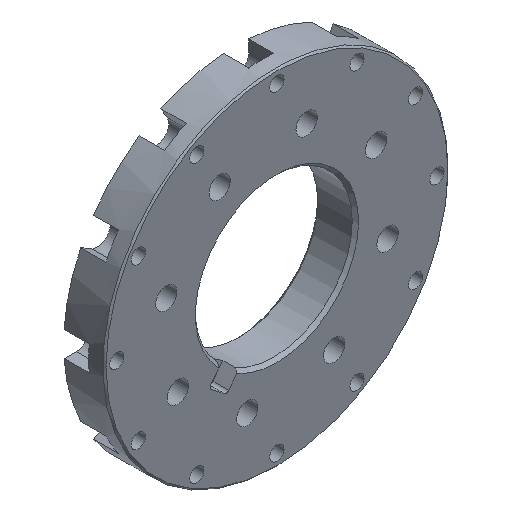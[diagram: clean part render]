
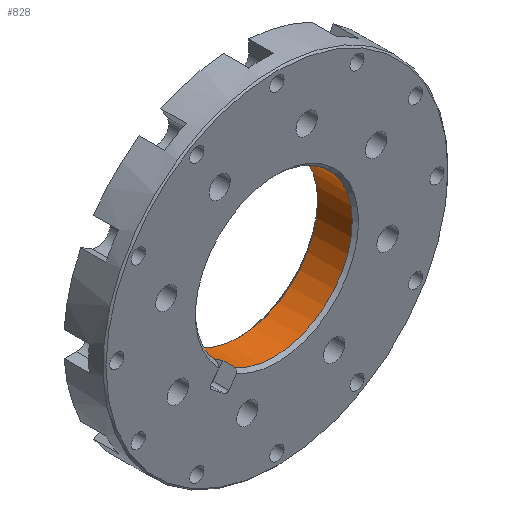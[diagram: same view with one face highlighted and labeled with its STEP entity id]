
A CAD part, isometric view. The second image highlights one B-rep face of the part: STEP entity #828.
In plain terms, the highlighted cylindrical face has radius 25 mm (diameter 50 mm), a full revolution.
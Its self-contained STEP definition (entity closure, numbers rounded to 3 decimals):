
#6 = AXIS2_PLACEMENT_3D ( 'NONE', #174, #2353, #1251 ) ;
#105 = VERTEX_POINT ( 'NONE', #2556 ) ;
#127 = EDGE_CURVE ( 'NONE', #1259, #105, #467, .T. ) ;
#149 = EDGE_LOOP ( 'NONE', ( #2075, #1397, #2398, #1826 ) ) ;
#174 = CARTESIAN_POINT ( 'NONE',  ( 0., -12., 0. ) ) ;
#207 = CARTESIAN_POINT ( 'NONE',  ( -12.204, 0., -21.819 ) ) ;
#219 = EDGE_LOOP ( 'NONE', ( #2237 ) ) ;
#322 = CYLINDRICAL_SURFACE ( 'NONE', #385, 25. ) ;
#366 = CARTESIAN_POINT ( 'NONE',  ( -17.916, 0., -17.436 ) ) ;
#385 = AXIS2_PLACEMENT_3D ( 'NONE', #906, #1211, #459 ) ;
#392 = CIRCLE ( 'NONE', #6, 25. ) ;
#459 = DIRECTION ( 'NONE',  ( 0., 0., 1. ) ) ;
#467 = CIRCLE ( 'NONE', #1860, 25. ) ;
#574 = AXIS2_PLACEMENT_3D ( 'NONE', #774, #1830, #971 ) ;
#620 = VECTOR ( 'NONE', #1257, 1000. ) ;
#774 = CARTESIAN_POINT ( 'NONE',  ( 0., -1., 0. ) ) ;
#828 = ADVANCED_FACE ( 'NONE', ( #2727, #2456 ), #322, .F. ) ;
#836 = LINE ( 'NONE', #366, #620 ) ;
#875 = VERTEX_POINT ( 'NONE', #1998 ) ;
#906 = CARTESIAN_POINT ( 'NONE',  ( 0., 0., 0. ) ) ;
#971 = DIRECTION ( 'NONE',  ( 0., 0., 1. ) ) ;
#1001 = CARTESIAN_POINT ( 'NONE',  ( 0., -8., 0. ) ) ;
#1211 = DIRECTION ( 'NONE',  ( 0., 1., 0. ) ) ;
#1238 = CARTESIAN_POINT ( 'NONE',  ( -12.204, -12., -21.819 ) ) ;
#1251 = DIRECTION ( 'NONE',  ( 0., 0., -1. ) ) ;
#1253 = EDGE_CURVE ( 'NONE', #1256, #2282, #392, .T. ) ;
#1256 = VERTEX_POINT ( 'NONE', #1238 ) ;
#1257 = DIRECTION ( 'NONE',  ( 0., -1., 0. ) ) ;
#1259 = VERTEX_POINT ( 'NONE', #2124 ) ;
#1306 = CARTESIAN_POINT ( 'NONE',  ( -17.916, -12., -17.436 ) ) ;
#1315 = CIRCLE ( 'NONE', #574, 25. ) ;
#1397 = ORIENTED_EDGE ( 'NONE', *, *, #127, .T. ) ;
#1692 = VECTOR ( 'NONE', #2184, 1000. ) ;
#1732 = LINE ( 'NONE', #207, #1692 ) ;
#1811 = EDGE_CURVE ( 'NONE', #1259, #2282, #836, .T. ) ;
#1826 = ORIENTED_EDGE ( 'NONE', *, *, #1253, .T. ) ;
#1830 = DIRECTION ( 'NONE',  ( 0., 1., 0. ) ) ;
#1860 = AXIS2_PLACEMENT_3D ( 'NONE', #1001, #2774, #1939 ) ;
#1939 = DIRECTION ( 'NONE',  ( 0., 0., -1. ) ) ;
#1998 = CARTESIAN_POINT ( 'NONE',  ( 0., -1., 25. ) ) ;
#1999 = EDGE_CURVE ( 'NONE', #875, #875, #1315, .T. ) ;
#2075 = ORIENTED_EDGE ( 'NONE', *, *, #1811, .F. ) ;
#2124 = CARTESIAN_POINT ( 'NONE',  ( -17.916, -8., -17.436 ) ) ;
#2184 = DIRECTION ( 'NONE',  ( 0., 1., 0. ) ) ;
#2237 = ORIENTED_EDGE ( 'NONE', *, *, #1999, .T. ) ;
#2282 = VERTEX_POINT ( 'NONE', #1306 ) ;
#2326 = EDGE_CURVE ( 'NONE', #1256, #105, #1732, .T. ) ;
#2353 = DIRECTION ( 'NONE',  ( 0., -1., 0. ) ) ;
#2398 = ORIENTED_EDGE ( 'NONE', *, *, #2326, .F. ) ;
#2456 = FACE_OUTER_BOUND ( 'NONE', #219, .T. ) ;
#2556 = CARTESIAN_POINT ( 'NONE',  ( -12.204, -8., -21.819 ) ) ;
#2727 = FACE_OUTER_BOUND ( 'NONE', #149, .T. ) ;
#2774 = DIRECTION ( 'NONE',  ( 0., -1., 0. ) ) ;
